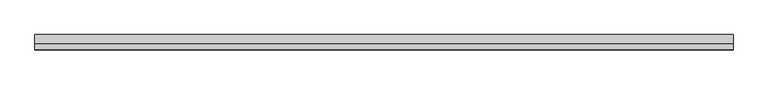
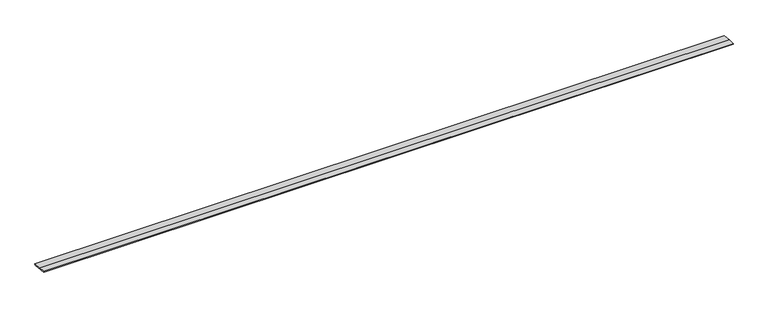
"""IFC4 building model written with IfcOpenShell, lengths in millimetres: beam geometry, weatherboad : weatherboad."""

from ifc_helpers import new_model, si_unit, frame, origin, place, context, project, spatial, polyline, outline, extrude, source, transform, mapped, element, save


def beam_2acd9a67(model_context):
    return source(origin(), model_context, "Body", "SweptSolid", [
        extrude(outline(polyline([(0.0, -9.143159), (1.1226388, 0.0), (79.0749747, 0.0), (180.9387048, -12.5072934), (178.6231873, -31.3656703), (0.0, -9.143159)])), frame((-4059.0480768, 0.0, 0.0), z_axis=(1.0, 0.0, 0.0), x_axis=(0.0, 1.0, 0.0)), (0.0, 0.0, 1.0), 8118.0961536),
    ])


if __name__ == "__main__":
    model = new_model("IFC4")
    model_context = context("Model", 3, world=origin())
    ifc_project = project(units=[si_unit("LENGTHUNIT", "METRE", prefix="MILLI")], contexts=[model_context])
    site = spatial("IfcSite", under=ifc_project)
    building = spatial("IfcBuilding", under=site)
    placement = place(None, origin())
    beam_shape = beam_2acd9a67(model_context)
    element("IfcBeam", 1, ObjectType="weatherboad : weatherboad", at=placement, inside=building, context=model_context, shape_type="MappedRepresentation", body=[
        mapped(beam_shape, transform((0.0, 0.0, 0.0), x_axis=(1.0, 0.0, 0.0), y_axis=(0.0, 1.0, 0.0), z_axis=(0.0, 0.0, 1.0))),
    ])
    save(model, "model.ifc")
